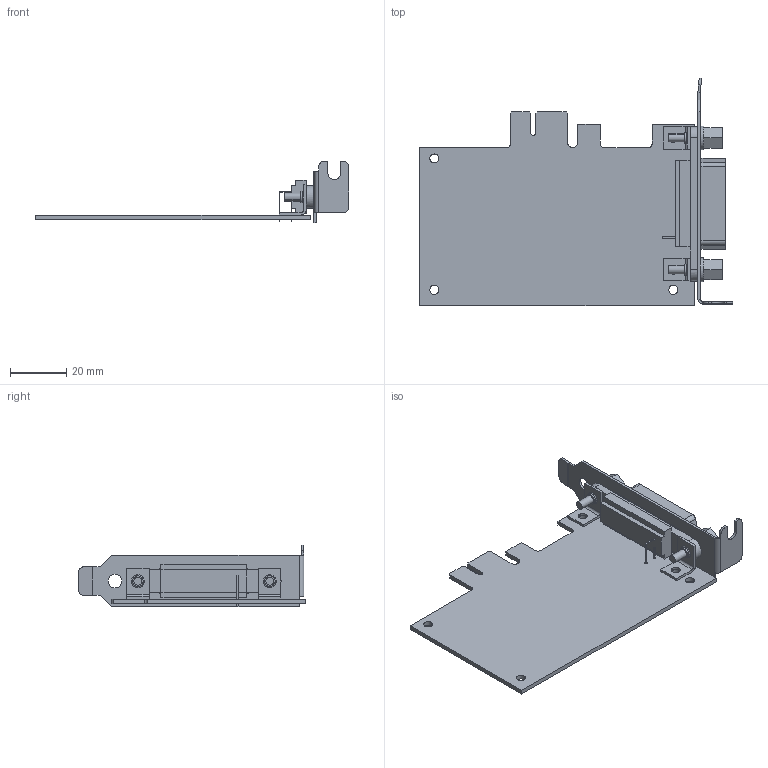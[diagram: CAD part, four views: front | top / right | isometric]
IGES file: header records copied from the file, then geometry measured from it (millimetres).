
Start section:  PTC IGES file: cu_pcie_gpib_lp.igs
Global section: file name: cu_pcie_gpib_lp.igs; native system: Creo Parametric by Parametric Technology Corporation; preprocessor: 2015280; author: dkendric; organization: Unknown; date: 20151221.113720; units: inch
Bounding box: 111.08 x 80.7 x 22 mm (x, y, z)
Surface area: 19295.6 mm2 (no closed solid volume)
Topology: 0 solids, 0 shells, 221 faces, 1190 edges, 1190 vertices
Faces by surface type: bspline 144, revolution 77
